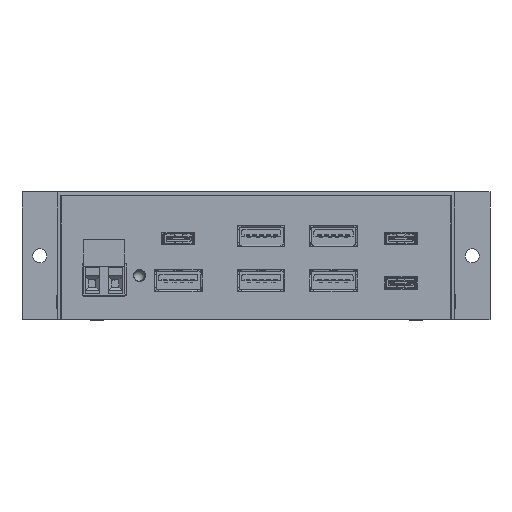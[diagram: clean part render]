
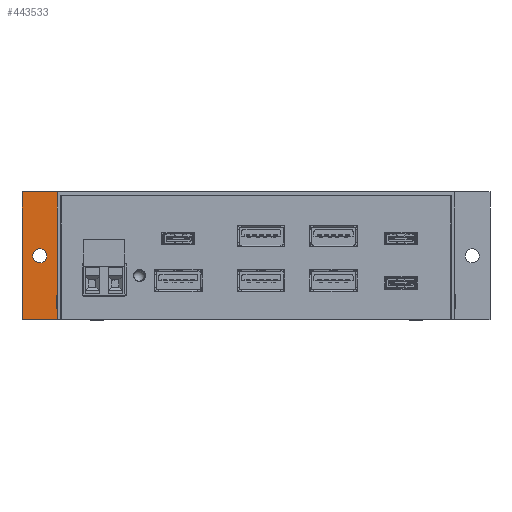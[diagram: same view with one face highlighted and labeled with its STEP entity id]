
A CAD part, front view. The second image highlights one B-rep face of the part: STEP entity #443533.
In plain terms, the highlighted planar face has unit normal (0, -1, 0).
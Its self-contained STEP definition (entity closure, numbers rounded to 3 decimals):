
#443417 = EDGE_CURVE('',#443418,#443420,#443422,.T.);
#443418 = VERTEX_POINT('',#443419);
#443419 = CARTESIAN_POINT('',(-10.,64.1,0.));
#443420 = VERTEX_POINT('',#443421);
#443421 = CARTESIAN_POINT('',(-10.,64.1,36.2));
#443422 = SURFACE_CURVE('',#443423,(#443427,#443439),.PCURVE_S1.);
#443423 = LINE('',#443424,#443425);
#443424 = CARTESIAN_POINT('',(-10.,64.1,0.));
#443425 = VECTOR('',#443426,1.);
#443426 = DIRECTION('',(0.,0.,1.));
#443427 = PCURVE('',#443428,#443433);
#443428 = PLANE('',#443429);
#443429 = AXIS2_PLACEMENT_3D('',#443430,#443431,#443432);
#443430 = CARTESIAN_POINT('',(-10.,0.,0.));
#443431 = DIRECTION('',(1.,0.,0.));
#443432 = DIRECTION('',(0.,0.,1.));
#443433 = DEFINITIONAL_REPRESENTATION('',(#443434),#443438);
#443434 = LINE('',#443435,#443436);
#443435 = CARTESIAN_POINT('',(0.,-64.1));
#443436 = VECTOR('',#443437,1.);
#443437 = DIRECTION('',(1.,0.));
#443438 = ( GEOMETRIC_REPRESENTATION_CONTEXT(2) 
PARAMETRIC_REPRESENTATION_CONTEXT() REPRESENTATION_CONTEXT('2D SPACE',''
  ) );
#443439 = PCURVE('',#443440,#443445);
#443440 = PLANE('',#443441);
#443441 = AXIS2_PLACEMENT_3D('',#443442,#443443,#443444);
#443442 = CARTESIAN_POINT('',(-10.,64.1,0.));
#443443 = DIRECTION('',(0.,1.,0.));
#443444 = DIRECTION('',(0.,0.,1.));
#443445 = DEFINITIONAL_REPRESENTATION('',(#443446),#443450);
#443446 = LINE('',#443447,#443448);
#443447 = CARTESIAN_POINT('',(0.,0.));
#443448 = VECTOR('',#443449,1.);
#443449 = DIRECTION('',(1.,0.));
#443450 = ( GEOMETRIC_REPRESENTATION_CONTEXT(2) 
PARAMETRIC_REPRESENTATION_CONTEXT() REPRESENTATION_CONTEXT('2D SPACE',''
  ) );
#443468 = PLANE('',#443469);
#443469 = AXIS2_PLACEMENT_3D('',#443470,#443471,#443472);
#443470 = CARTESIAN_POINT('',(-10.,0.,0.));
#443471 = DIRECTION('',(0.,0.,1.));
#443472 = DIRECTION('',(1.,0.,0.));
#443522 = PLANE('',#443523);
#443523 = AXIS2_PLACEMENT_3D('',#443524,#443525,#443526);
#443524 = CARTESIAN_POINT('',(-10.,0.,36.2));
#443525 = DIRECTION('',(0.,0.,1.));
#443526 = DIRECTION('',(1.,0.,0.));
#443533 = ADVANCED_FACE('',(#443534,#443607),#443440,.F.);
#443534 = FACE_BOUND('',#443535,.F.);
#443535 = EDGE_LOOP('',(#443536,#443566,#443587,#443588));
#443536 = ORIENTED_EDGE('',*,*,#443537,.F.);
#443537 = EDGE_CURVE('',#443538,#443540,#443542,.T.);
#443538 = VERTEX_POINT('',#443539);
#443539 = CARTESIAN_POINT('',(-0.025,64.1,0.));
#443540 = VERTEX_POINT('',#443541);
#443541 = CARTESIAN_POINT('',(-0.025,64.1,36.2));
#443542 = SURFACE_CURVE('',#443543,(#443547,#443554),.PCURVE_S1.);
#443543 = LINE('',#443544,#443545);
#443544 = CARTESIAN_POINT('',(-0.025,64.1,0.));
#443545 = VECTOR('',#443546,1.);
#443546 = DIRECTION('',(0.,0.,1.));
#443547 = PCURVE('',#443440,#443548);
#443548 = DEFINITIONAL_REPRESENTATION('',(#443549),#443553);
#443549 = LINE('',#443550,#443551);
#443550 = CARTESIAN_POINT('',(0.,9.975));
#443551 = VECTOR('',#443552,1.);
#443552 = DIRECTION('',(1.,0.));
#443553 = ( GEOMETRIC_REPRESENTATION_CONTEXT(2) 
PARAMETRIC_REPRESENTATION_CONTEXT() REPRESENTATION_CONTEXT('2D SPACE',''
  ) );
#443554 = PCURVE('',#443555,#443560);
#443555 = PLANE('',#443556);
#443556 = AXIS2_PLACEMENT_3D('',#443557,#443558,#443559);
#443557 = CARTESIAN_POINT('',(-0.025,0.,0.));
#443558 = DIRECTION('',(1.,0.,0.));
#443559 = DIRECTION('',(0.,0.,1.));
#443560 = DEFINITIONAL_REPRESENTATION('',(#443561),#443565);
#443561 = LINE('',#443562,#443563);
#443562 = CARTESIAN_POINT('',(0.,-64.1));
#443563 = VECTOR('',#443564,1.);
#443564 = DIRECTION('',(1.,0.));
#443565 = ( GEOMETRIC_REPRESENTATION_CONTEXT(2) 
PARAMETRIC_REPRESENTATION_CONTEXT() REPRESENTATION_CONTEXT('2D SPACE',''
  ) );
#443566 = ORIENTED_EDGE('',*,*,#443567,.F.);
#443567 = EDGE_CURVE('',#443418,#443538,#443568,.T.);
#443568 = SURFACE_CURVE('',#443569,(#443573,#443580),.PCURVE_S1.);
#443569 = LINE('',#443570,#443571);
#443570 = CARTESIAN_POINT('',(-10.,64.1,0.));
#443571 = VECTOR('',#443572,1.);
#443572 = DIRECTION('',(1.,0.,0.));
#443573 = PCURVE('',#443440,#443574);
#443574 = DEFINITIONAL_REPRESENTATION('',(#443575),#443579);
#443575 = LINE('',#443576,#443577);
#443576 = CARTESIAN_POINT('',(0.,0.));
#443577 = VECTOR('',#443578,1.);
#443578 = DIRECTION('',(0.,1.));
#443579 = ( GEOMETRIC_REPRESENTATION_CONTEXT(2) 
PARAMETRIC_REPRESENTATION_CONTEXT() REPRESENTATION_CONTEXT('2D SPACE',''
  ) );
#443580 = PCURVE('',#443468,#443581);
#443581 = DEFINITIONAL_REPRESENTATION('',(#443582),#443586);
#443582 = LINE('',#443583,#443584);
#443583 = CARTESIAN_POINT('',(0.,64.1));
#443584 = VECTOR('',#443585,1.);
#443585 = DIRECTION('',(1.,0.));
#443586 = ( GEOMETRIC_REPRESENTATION_CONTEXT(2) 
PARAMETRIC_REPRESENTATION_CONTEXT() REPRESENTATION_CONTEXT('2D SPACE',''
  ) );
#443587 = ORIENTED_EDGE('',*,*,#443417,.T.);
#443588 = ORIENTED_EDGE('',*,*,#443589,.F.);
#443589 = EDGE_CURVE('',#443540,#443420,#443590,.T.);
#443590 = SURFACE_CURVE('',#443591,(#443595,#443601),.PCURVE_S1.);
#443591 = LINE('',#443592,#443593);
#443592 = CARTESIAN_POINT('',(-10.,64.1,36.2));
#443593 = VECTOR('',#443594,1.);
#443594 = DIRECTION('',(-1.,0.,0.));
#443595 = PCURVE('',#443440,#443596);
#443596 = DEFINITIONAL_REPRESENTATION('',(#443597),#443600);
#443597 = B_SPLINE_CURVE_WITH_KNOTS('',1,(#443598,#443599),
  .UNSPECIFIED.,.F.,.F.,(2,2),(-10.973,0.998),
  .PIECEWISE_BEZIER_KNOTS.);
#443598 = CARTESIAN_POINT('',(36.2,10.973));
#443599 = CARTESIAN_POINT('',(36.2,-0.998));
#443600 = ( GEOMETRIC_REPRESENTATION_CONTEXT(2) 
PARAMETRIC_REPRESENTATION_CONTEXT() REPRESENTATION_CONTEXT('2D SPACE',''
  ) );
#443601 = PCURVE('',#443522,#443602);
#443602 = DEFINITIONAL_REPRESENTATION('',(#443603),#443606);
#443603 = B_SPLINE_CURVE_WITH_KNOTS('',1,(#443604,#443605),
  .UNSPECIFIED.,.F.,.F.,(2,2),(-10.973,0.998),
  .PIECEWISE_BEZIER_KNOTS.);
#443604 = CARTESIAN_POINT('',(10.973,64.1));
#443605 = CARTESIAN_POINT('',(-0.998,64.1));
#443606 = ( GEOMETRIC_REPRESENTATION_CONTEXT(2) 
PARAMETRIC_REPRESENTATION_CONTEXT() REPRESENTATION_CONTEXT('2D SPACE',''
  ) );
#443607 = FACE_BOUND('',#443608,.F.);
#443608 = EDGE_LOOP('',(#443609));
#443609 = ORIENTED_EDGE('',*,*,#443610,.T.);
#443610 = EDGE_CURVE('',#443611,#443611,#443613,.T.);
#443611 = VERTEX_POINT('',#443612);
#443612 = CARTESIAN_POINT('',(-3.,64.1,18.1));
#443613 = SURFACE_CURVE('',#443614,(#443619,#443630),.PCURVE_S1.);
#443614 = CIRCLE('',#443615,2.);
#443615 = AXIS2_PLACEMENT_3D('',#443616,#443617,#443618);
#443616 = CARTESIAN_POINT('',(-5.,64.1,18.1));
#443617 = DIRECTION('',(0.,-1.,0.));
#443618 = DIRECTION('',(1.,0.,0.));
#443619 = PCURVE('',#443440,#443620);
#443620 = DEFINITIONAL_REPRESENTATION('',(#443621),#443629);
#443621 = ( BOUNDED_CURVE() B_SPLINE_CURVE(2,(#443622,#443623,#443624,
    #443625,#443626,#443627,#443628),.UNSPECIFIED.,.T.,.F.) 
B_SPLINE_CURVE_WITH_KNOTS((1,2,2,2,2,1),(-2.094,0.,
    2.094,4.189,6.283,8.378),
.UNSPECIFIED.) CURVE() GEOMETRIC_REPRESENTATION_ITEM() 
RATIONAL_B_SPLINE_CURVE((1.,0.5,1.,0.5,1.,0.5,1.)) REPRESENTATION_ITEM(
  '') );
#443622 = CARTESIAN_POINT('',(18.1,7.));
#443623 = CARTESIAN_POINT('',(21.564,7.));
#443624 = CARTESIAN_POINT('',(19.832,4.));
#443625 = CARTESIAN_POINT('',(18.1,1.));
#443626 = CARTESIAN_POINT('',(16.368,4.));
#443627 = CARTESIAN_POINT('',(14.636,7.));
#443628 = CARTESIAN_POINT('',(18.1,7.));
#443629 = ( GEOMETRIC_REPRESENTATION_CONTEXT(2) 
PARAMETRIC_REPRESENTATION_CONTEXT() REPRESENTATION_CONTEXT('2D SPACE',''
  ) );
#443630 = PCURVE('',#443631,#443636);
#443631 = CYLINDRICAL_SURFACE('',#443632,2.);
#443632 = AXIS2_PLACEMENT_3D('',#443633,#443634,#443635);
#443633 = CARTESIAN_POINT('',(-5.,70.,18.1));
#443634 = DIRECTION('',(0.,-1.,0.));
#443635 = DIRECTION('',(1.,0.,0.));
#443636 = DEFINITIONAL_REPRESENTATION('',(#443637),#443641);
#443637 = LINE('',#443638,#443639);
#443638 = CARTESIAN_POINT('',(0.,5.9));
#443639 = VECTOR('',#443640,1.);
#443640 = DIRECTION('',(1.,0.));
#443641 = ( GEOMETRIC_REPRESENTATION_CONTEXT(2) 
PARAMETRIC_REPRESENTATION_CONTEXT() REPRESENTATION_CONTEXT('2D SPACE',''
  ) );
